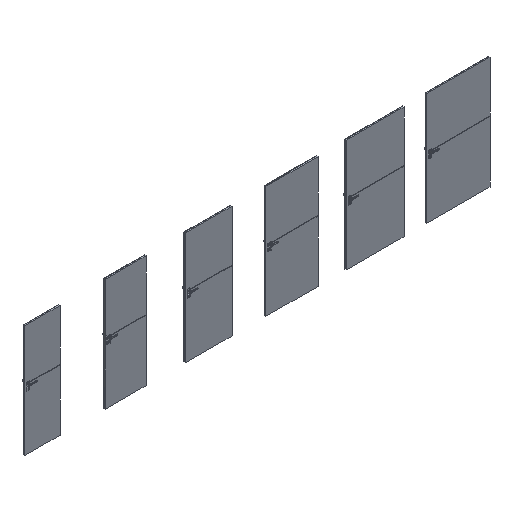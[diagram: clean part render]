
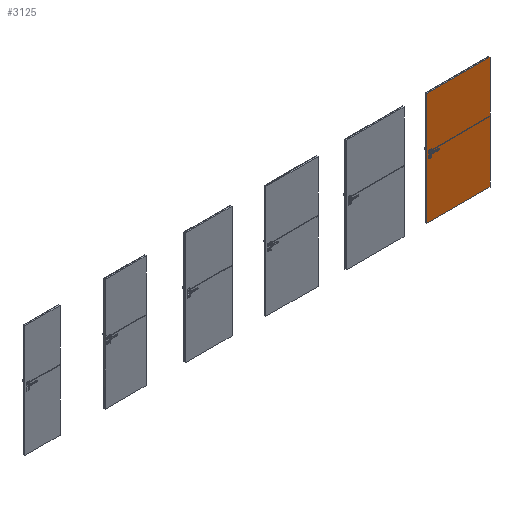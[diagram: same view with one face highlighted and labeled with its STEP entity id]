
A CAD part, isometric view. The second image highlights one B-rep face of the part: STEP entity #3125.
In plain terms, the highlighted planar face has unit normal (0, -1, 0).
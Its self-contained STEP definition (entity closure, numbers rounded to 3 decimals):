
#1923=CIRCLE('',#19909,4.15);
#3125=ADVANCED_FACE('',(#4751),#3879,.F.);
#3879=PLANE('',#19910);
#4751=FACE_OUTER_BOUND('',#5951,.T.);
#5951=EDGE_LOOP('',(#9774,#9775,#9776,#9777,#9778,#9779,#9780,#9781));
#9774=ORIENTED_EDGE('',*,*,#14956,.F.);
#9775=ORIENTED_EDGE('',*,*,#14926,.F.);
#9776=ORIENTED_EDGE('',*,*,#14955,.F.);
#9777=ORIENTED_EDGE('',*,*,#14957,.T.);
#9778=ORIENTED_EDGE('',*,*,#14958,.T.);
#9779=ORIENTED_EDGE('',*,*,#14922,.F.);
#9780=ORIENTED_EDGE('',*,*,#14959,.T.);
#9781=ORIENTED_EDGE('',*,*,#14960,.F.);
#12690=VERTEX_POINT('',#34144);
#12691=VERTEX_POINT('',#34146);
#12694=VERTEX_POINT('',#34152);
#12695=VERTEX_POINT('',#34154);
#12719=VERTEX_POINT('',#34210);
#12720=VERTEX_POINT('',#34214);
#12721=VERTEX_POINT('',#34216);
#12722=VERTEX_POINT('',#34219);
#14922=EDGE_CURVE('',#12690,#12691,#16811,.T.);
#14926=EDGE_CURVE('',#12694,#12695,#16815,.T.);
#14955=EDGE_CURVE('',#12719,#12694,#16836,.T.);
#14956=EDGE_CURVE('',#12695,#12720,#16837,.T.);
#14957=EDGE_CURVE('',#12719,#12721,#16838,.T.);
#14958=EDGE_CURVE('',#12721,#12691,#16839,.T.);
#14959=EDGE_CURVE('',#12690,#12722,#16840,.T.);
#14960=EDGE_CURVE('',#12720,#12722,#1923,.T.);
#16811=LINE('',#34145,#18227);
#16815=LINE('',#34153,#18231);
#16836=LINE('',#34211,#18252);
#16837=LINE('',#34213,#18253);
#16838=LINE('',#34215,#18254);
#16839=LINE('',#34217,#18255);
#16840=LINE('',#34218,#18256);
#18227=VECTOR('',#23808,1.);
#18231=VECTOR('',#23812,1.);
#18252=VECTOR('',#23857,1.);
#18253=VECTOR('',#23860,1.);
#18254=VECTOR('',#23861,1.);
#18255=VECTOR('',#23862,1.);
#18256=VECTOR('',#23863,1.);
#19909=AXIS2_PLACEMENT_3D('',#34220,#23864,#23865);
#19910=AXIS2_PLACEMENT_3D('',#34221,#23866,#23867);
#23808=DIRECTION('',(0.,0.,-1.));
#23812=DIRECTION('',(0.,0.,-1.));
#23857=DIRECTION('',(1.,0.,0.));
#23860=DIRECTION('',(-1.,0.,0.));
#23861=DIRECTION('',(0.,0.,-1.));
#23862=DIRECTION('',(1.,0.,0.));
#23863=DIRECTION('',(-1.,0.,0.));
#23864=DIRECTION('',(0.,-1.,0.));
#23865=DIRECTION('',(0.,0.,-1.));
#23866=DIRECTION('',(0.,1.,0.));
#23867=DIRECTION('',(-1.,0.,0.));
#34144=CARTESIAN_POINT('',(8069.5,-39.3,1099.85));
#34145=CARTESIAN_POINT('',(8069.5,-39.3,2027.));
#34146=CARTESIAN_POINT('',(8069.5,-39.3,0.));
#34152=CARTESIAN_POINT('',(8069.5,-39.3,2027.));
#34153=CARTESIAN_POINT('',(8069.5,-39.3,2027.));
#34154=CARTESIAN_POINT('',(8069.5,-39.3,1108.15));
#34210=CARTESIAN_POINT('',(6930.5,-39.3,2027.));
#34211=CARTESIAN_POINT('',(7180.5,-39.3,2027.));
#34213=CARTESIAN_POINT('',(8069.5,-39.3,1108.15));
#34214=CARTESIAN_POINT('',(7024.65,-39.3,1108.15));
#34215=CARTESIAN_POINT('',(6930.5,-39.3,2027.));
#34216=CARTESIAN_POINT('',(6930.5,-39.3,0.));
#34217=CARTESIAN_POINT('',(7180.5,-39.3,0.));
#34218=CARTESIAN_POINT('',(8069.5,-39.3,1099.85));
#34219=CARTESIAN_POINT('',(7024.65,-39.3,1099.85));
#34220=CARTESIAN_POINT('',(7024.65,-39.3,1104.));
#34221=CARTESIAN_POINT('',(7180.5,-39.3,2027.));
